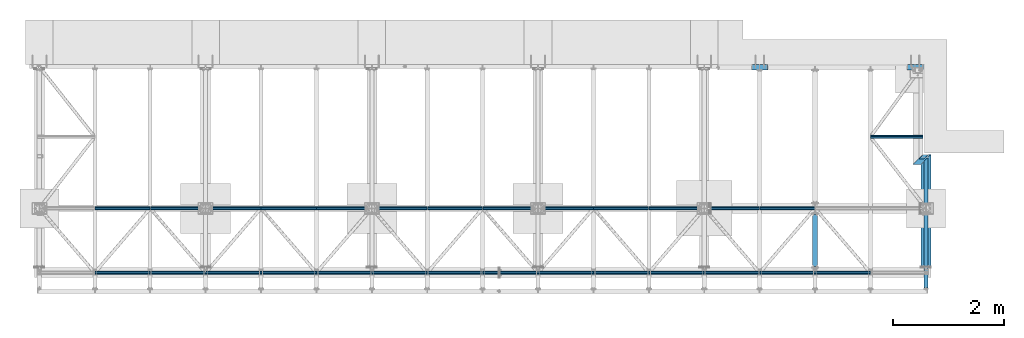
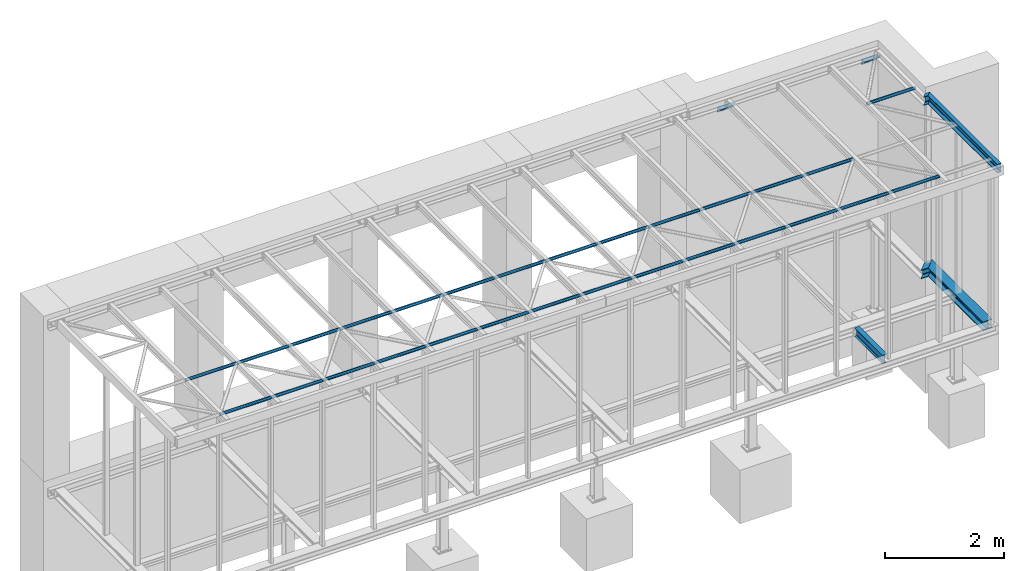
# One storey, part 5 of 22: 35 beams, 35 elements without a shape of their own.
"""IFC2X3 building model written with IfcOpenShell, lengths in millimetres."""

from ifc_helpers import new_model, si_unit, frame, origin_with_axes, origin_2d_with_axis, place, context, subcontext, project, spatial, hollow_circle, i_section, l_section, u_section, extrude, clip, halfspace, material, type_object, element, aggregate, save


model = new_model("IFC2X3")

# Units and contexts
model_context = context("Model", 3, precision=1e-05, world=origin_with_axes())
body_context = subcontext(model_context, "Body", "Model", "MODEL_VIEW")
ifc_project = project(units=[si_unit("LENGTHUNIT", "METRE", prefix="MILLI"), si_unit("AREAUNIT", "SQUARE_METRE"), si_unit("VOLUMEUNIT", "CUBIC_METRE"), si_unit("MASSUNIT", "GRAM", prefix="KILO"), si_unit("TIMEUNIT", "SECOND"), si_unit("PLANEANGLEUNIT", "RADIAN"), si_unit("SOLIDANGLEUNIT", "STERADIAN"), si_unit("THERMODYNAMICTEMPERATUREUNIT", "DEGREE_CELSIUS"), si_unit("LUMINOUSINTENSITYUNIT", "LUMEN")], contexts=[model_context])

# Site, building, storey
site_placement = place(None, origin_with_axes())
site = spatial("IfcSite", under=ifc_project, at=site_placement, Name="Undefined", CompositionType="ELEMENT")
building_placement = place(site_placement, origin_with_axes())
building = spatial("IfcBuilding", under=site, at=building_placement, Name="Undefined", CompositionType="ELEMENT")
storey_placement = place(building_placement, origin_with_axes())
storey = spatial("IfcBuildingStorey", under=building, at=storey_placement, Name="Undefined", CompositionType="ELEMENT", Elevation=0.0)

# Assembly, beam
assembly_1_placement = place(storey_placement, origin_with_axes())
assembly_1 = element("IfcElementAssembly", 1, at=assembly_1_placement, inside=storey, Name="Steel Assembly", AssemblyPlace="NOTDEFINED", PredefinedType="RIGID_FRAME")
ifc_material = material(Name="STEEL/S235JR")
beam_type_1 = type_object("IfcBeamType", Name="IPE180", PredefinedType="NOTDEFINED")
beam_1_placement = place(assembly_1_placement, frame((14050.0, 1150.0, -250.0), z_axis=(0.0, 0.0, 1.0), x_axis=(0.0, -1.0, 0.0)))
beam_1 = element("IfcBeam", 2, at=beam_1_placement, type_object=beam_type_1, material=ifc_material, Name="NOSNÍK", ObjectType="IPE180", context=body_context, shape_type="SweptSolid", body=[
    extrude(i_section(OverallWidth=91.0, OverallDepth=180.0, WebThickness=5.300000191, FlangeThickness=8.0, FilletRadius=9.0, at=origin_2d_with_axis()), frame((940.0, 0.0, 0.0), z_axis=(-1.0, 0.0, 0.0), x_axis=(0.0, -1.0, 0.0)), (0.0, 0.0, 1.0), 940.0),
])
aggregate(assembly_1, [beam_1])

assembly_2_placement = place(storey_placement, origin_with_axes())
assembly_2 = element("IfcElementAssembly", 3, at=assembly_2_placement, inside=storey, Name="Steel Assembly", AssemblyPlace="NOTDEFINED", PredefinedType="RIGID_FRAME")
beam_type_2 = type_object("IfcBeamType", Name="HEB180", PredefinedType="NOTDEFINED")
beam_2_placement = place(assembly_2_placement, frame((16150.0, 2140.0, -250.0), z_axis=(0.0, 0.0, -1.0), x_axis=(-1.0, 0.0, 0.0)))
beam_2 = element("IfcBeam", 4, at=beam_2_placement, type_object=beam_type_2, material=ifc_material, Name="NOSNÍK", ObjectType="HEB180", context=body_context, shape_type="Clipping", body=[
    clip(clip(extrude(i_section(OverallWidth=180.0, OverallDepth=180.0, WebThickness=8.5, FlangeThickness=14.0, FilletRadius=15.0, at=origin_2d_with_axis()), frame((345.0, 0.0, 0.0), z_axis=(-1.0, 0.0, 0.0), x_axis=(0.0, -1.0, 0.0)), (0.0, 0.0, 1.0), 345.0), halfspace(frame((0.0, 100.0, -90.0), z_axis=(-0.707106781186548, -0.707106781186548, 0.0), x_axis=(0.0, 0.0, 1.0)), False)), halfspace(frame((345.0, -100.0, -90.0), z_axis=(0.707106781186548, 0.707106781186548, 0.0), x_axis=(0.0, 0.0, 1.0)), False)),
])
aggregate(assembly_2, [beam_2])

assembly_3_placement = place(storey_placement, origin_with_axes())
assembly_3 = element("IfcElementAssembly", 5, at=assembly_3_placement, inside=storey, Name="Steel Assembly", AssemblyPlace="NOTDEFINED", PredefinedType="RIGID_FRAME")
beam_3_placement = place(assembly_3_placement, frame((16050.0, 210.0, -250.0), z_axis=(0.0, 0.0, -1.0), x_axis=(0.0, 1.0, 0.0)))
beam_3 = element("IfcBeam", 6, at=beam_3_placement, type_object=beam_type_2, material=ifc_material, Name="NOSNÍK", ObjectType="HEB180", context=body_context, shape_type="Clipping", body=[
    clip(extrude(i_section(OverallWidth=180.0, OverallDepth=180.0, WebThickness=8.5, FlangeThickness=14.0, FilletRadius=15.0, at=origin_2d_with_axis()), frame((2030.0, 0.0, 0.0), z_axis=(-1.0, 0.0, 0.0), x_axis=(0.0, -1.0, 0.0)), (0.0, 0.0, 1.0), 2030.0), halfspace(frame((2030.0, 100.0, 110.0), z_axis=(0.707106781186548, -0.707106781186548, 0.0), x_axis=(0.0, 0.0, -1.0)), False)),
])
aggregate(assembly_3, [beam_3])

assembly_4_placement = place(storey_placement, origin_with_axes())
assembly_4 = element("IfcElementAssembly", 7, at=assembly_4_placement, inside=storey, Name="Steel Assembly", AssemblyPlace="NOTDEFINED", PredefinedType="RIGID_FRAME")
beam_type_3 = type_object("IfcBeamType", Name="UPE180", PredefinedType="NOTDEFINED")
beam_4_placement = place(assembly_4_placement, frame((15925.0, 2192.5, 3210.0), z_axis=(0.0, 0.0, 1.0), x_axis=(1.0, 0.0, 0.0)))
beam_4 = element("IfcBeam", 8, at=beam_4_placement, type_object=beam_type_3, material=ifc_material, Name="NOSNÍK", ObjectType="UPE180", context=body_context, shape_type="Clipping", body=[
    clip(clip(extrude(u_section(Depth=180.0, FlangeWidth=75.0, WebThickness=5.5, FlangeThickness=10.5, FilletRadius=12.0, at=origin_2d_with_axis()), frame((165.0, 0.0, 0.0), z_axis=(-1.0, 0.0, 0.0), x_axis=(0.0, -1.0, 0.0)), (0.0, 0.0, 1.0), 165.0), halfspace(frame((90.0, -37.5, -90.0), z_axis=(0.707106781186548, -0.707106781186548, 0.0), x_axis=(0.0, 0.0, 1.0)), False)), halfspace(frame((75.0, 37.5, -90.0), z_axis=(-0.707106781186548, 0.707106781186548, 0.0), x_axis=(0.0, 0.0, 1.0)), False)),
])
aggregate(assembly_4, [beam_4])

assembly_5_placement = place(storey_placement, origin_with_axes())
assembly_5 = element("IfcElementAssembly", 9, at=assembly_5_placement, inside=storey, Name="Steel Assembly", AssemblyPlace="NOTDEFINED", PredefinedType="RIGID_FRAME")
beam_5_placement = place(assembly_5_placement, frame((16052.5, -180.0, 3210.0), z_axis=(0.0, 0.0, -1.0), x_axis=(0.0, 1.0, 0.0)))
beam_5 = element("IfcBeam", 10, at=beam_5_placement, type_object=beam_type_3, material=ifc_material, Name="NOSNÍK", ObjectType="UPE180", context=body_context, shape_type="Clipping", body=[
    clip(extrude(u_section(Depth=180.0, FlangeWidth=75.0, WebThickness=5.5, FlangeThickness=10.5, FilletRadius=12.0, at=origin_2d_with_axis()), frame((2410.0, 0.0, 0.0), z_axis=(-1.0, 0.0, 0.0), x_axis=(0.0, -1.0, 0.0)), (0.0, 0.0, 1.0), 2410.0), halfspace(frame((2410.0, 37.5, 90.0), z_axis=(0.707106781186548, -0.707106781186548, 0.0), x_axis=(0.0, 0.0, -1.0)), False)),
])
aggregate(assembly_5, [beam_5])

assembly_6_placement = place(storey_placement, origin_with_axes())
assembly_6 = element("IfcElementAssembly", 11, at=assembly_6_placement, inside=storey, Name="Steel Assembly", AssemblyPlace="NOTDEFINED", PredefinedType="RIGID_FRAME")
beam_type_4 = type_object("IfcBeamType", Name="CHS60.3*5", PredefinedType="NOTDEFINED")
beam_6_placement = place(assembly_6_placement, frame((15050.0, 2550.0, 3230.0), z_axis=(0.0, 0.0, -1.0), x_axis=(1.0, 0.0, 0.0)))
beam_6 = element("IfcBeam", 12, at=beam_6_placement, type_object=beam_type_4, material=ifc_material, Name="NOSNÍK", ObjectType="CHS60.3*5", context=body_context, shape_type="SweptSolid", body=[
    extrude(hollow_circle(Radius=30.15, WallThickness=5.0, at=origin_2d_with_axis()), frame((945.0, 0.0, 0.0), z_axis=(-1.0, 0.0, 0.0), x_axis=(0.0, -1.0, 0.0)), (0.0, 0.0, 1.0), 945.0),
])
aggregate(assembly_6, [beam_6])

assembly_7_placement = place(storey_placement, origin_with_axes())
assembly_7 = element("IfcElementAssembly", 13, at=assembly_7_placement, inside=storey, Name="Steel Assembly", AssemblyPlace="NOTDEFINED", PredefinedType="RIGID_FRAME")
beam_7_placement = place(assembly_7_placement, frame((14052.35, 100.0, 3230.0), z_axis=(0.0, 0.0, -1.0), x_axis=(1.0, 0.0, 0.0)))
beam_7 = element("IfcBeam", 14, at=beam_7_placement, type_object=beam_type_4, material=ifc_material, Name="NOSNÍK", ObjectType="CHS60.3*5", context=body_context, shape_type="SweptSolid", body=[
    extrude(hollow_circle(Radius=30.15, WallThickness=5.0, at=origin_2d_with_axis()), frame((995.299999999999, 0.0, 0.0), z_axis=(-1.0, 0.0, 0.0), x_axis=(0.0, -1.0, 0.0)), (0.0, 0.0, 1.0), 995.3),
])
aggregate(assembly_7, [beam_7])

assembly_8_placement = place(storey_placement, origin_with_axes())
assembly_8 = element("IfcElementAssembly", 15, at=assembly_8_placement, inside=storey, Name="Steel Assembly", AssemblyPlace="NOTDEFINED", PredefinedType="RIGID_FRAME")
beam_8_placement = place(assembly_8_placement, frame((13052.35, 100.0, 3230.0), z_axis=(0.0, 0.0, -1.0), x_axis=(1.0, 0.0, 0.0)))
beam_8 = element("IfcBeam", 16, at=beam_8_placement, type_object=beam_type_4, material=ifc_material, Name="NOSNÍK", ObjectType="CHS60.3*5", context=body_context, shape_type="SweptSolid", body=[
    extrude(hollow_circle(Radius=30.15, WallThickness=5.0, at=origin_2d_with_axis()), frame((995.299999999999, 0.0, 0.0), z_axis=(-1.0, 0.0, 0.0), x_axis=(0.0, -1.0, 0.0)), (0.0, 0.0, 1.0), 995.3),
])
aggregate(assembly_8, [beam_8])

assembly_9_placement = place(storey_placement, origin_with_axes())
assembly_9 = element("IfcElementAssembly", 17, at=assembly_9_placement, inside=storey, Name="Steel Assembly", AssemblyPlace="NOTDEFINED", PredefinedType="RIGID_FRAME")
beam_9_placement = place(assembly_9_placement, frame((12052.35, 100.0, 3230.0), z_axis=(0.0, 0.0, -1.0), x_axis=(1.0, 0.0, 0.0)))
beam_9 = element("IfcBeam", 18, at=beam_9_placement, type_object=beam_type_4, material=ifc_material, Name="NOSNÍK", ObjectType="CHS60.3*5", context=body_context, shape_type="SweptSolid", body=[
    extrude(hollow_circle(Radius=30.15, WallThickness=5.0, at=origin_2d_with_axis()), frame((995.299999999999, 0.0, 0.0), z_axis=(-1.0, 0.0, 0.0), x_axis=(0.0, -1.0, 0.0)), (0.0, 0.0, 1.0), 995.3),
])
aggregate(assembly_9, [beam_9])

assembly_10_placement = place(storey_placement, origin_with_axes())
assembly_10 = element("IfcElementAssembly", 19, at=assembly_10_placement, inside=storey, Name="Steel Assembly", AssemblyPlace="NOTDEFINED", PredefinedType="RIGID_FRAME")
beam_10_placement = place(assembly_10_placement, frame((11052.35, 100.0, 3230.0), z_axis=(0.0, 0.0, -1.0), x_axis=(1.0, 0.0, 0.0)))
beam_10 = element("IfcBeam", 20, at=beam_10_placement, type_object=beam_type_4, material=ifc_material, Name="NOSNÍK", ObjectType="CHS60.3*5", context=body_context, shape_type="SweptSolid", body=[
    extrude(hollow_circle(Radius=30.15, WallThickness=5.0, at=origin_2d_with_axis()), frame((995.299999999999, 0.0, 0.0), z_axis=(-1.0, 0.0, 0.0), x_axis=(0.0, -1.0, 0.0)), (0.0, 0.0, 1.0), 995.3),
])
aggregate(assembly_10, [beam_10])

assembly_11_placement = place(storey_placement, origin_with_axes())
assembly_11 = element("IfcElementAssembly", 21, at=assembly_11_placement, inside=storey, Name="Steel Assembly", AssemblyPlace="NOTDEFINED", PredefinedType="RIGID_FRAME")
beam_11_placement = place(assembly_11_placement, frame((10052.35, 100.0, 3230.0), z_axis=(0.0, 0.0, -1.0), x_axis=(1.0, 0.0, 0.0)))
beam_11 = element("IfcBeam", 22, at=beam_11_placement, type_object=beam_type_4, material=ifc_material, Name="NOSNÍK", ObjectType="CHS60.3*5", context=body_context, shape_type="SweptSolid", body=[
    extrude(hollow_circle(Radius=30.15, WallThickness=5.0, at=origin_2d_with_axis()), frame((995.299999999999, 0.0, 0.0), z_axis=(-1.0, 0.0, 0.0), x_axis=(0.0, -1.0, 0.0)), (0.0, 0.0, 1.0), 995.3),
])
aggregate(assembly_11, [beam_11])

assembly_12_placement = place(storey_placement, origin_with_axes())
assembly_12 = element("IfcElementAssembly", 23, at=assembly_12_placement, inside=storey, Name="Steel Assembly", AssemblyPlace="NOTDEFINED", PredefinedType="RIGID_FRAME")
beam_12_placement = place(assembly_12_placement, frame((9052.35, 100.0, 3230.0), z_axis=(0.0, 0.0, -1.0), x_axis=(1.0, 0.0, 0.0)))
beam_12 = element("IfcBeam", 24, at=beam_12_placement, type_object=beam_type_4, material=ifc_material, Name="NOSNÍK", ObjectType="CHS60.3*5", context=body_context, shape_type="SweptSolid", body=[
    extrude(hollow_circle(Radius=30.15, WallThickness=5.0, at=origin_2d_with_axis()), frame((995.299999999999, 0.0, 0.0), z_axis=(-1.0, 0.0, 0.0), x_axis=(0.0, -1.0, 0.0)), (0.0, 0.0, 1.0), 995.3),
])
aggregate(assembly_12, [beam_12])

assembly_13_placement = place(storey_placement, origin_with_axes())
assembly_13 = element("IfcElementAssembly", 25, at=assembly_13_placement, inside=storey, Name="Steel Assembly", AssemblyPlace="NOTDEFINED", PredefinedType="RIGID_FRAME")
beam_13_placement = place(assembly_13_placement, frame((8052.35, 100.0, 3230.0), z_axis=(0.0, 0.0, -1.0), x_axis=(1.0, 0.0, 0.0)))
beam_13 = element("IfcBeam", 26, at=beam_13_placement, type_object=beam_type_4, material=ifc_material, Name="NOSNÍK", ObjectType="CHS60.3*5", context=body_context, shape_type="SweptSolid", body=[
    extrude(hollow_circle(Radius=30.15, WallThickness=5.0, at=origin_2d_with_axis()), frame((995.299999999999, 0.0, 0.0), z_axis=(-1.0, 0.0, 0.0), x_axis=(0.0, -1.0, 0.0)), (0.0, 0.0, 1.0), 995.3),
])
aggregate(assembly_13, [beam_13])

assembly_14_placement = place(storey_placement, origin_with_axes())
assembly_14 = element("IfcElementAssembly", 27, at=assembly_14_placement, inside=storey, Name="Steel Assembly", AssemblyPlace="NOTDEFINED", PredefinedType="RIGID_FRAME")
beam_14_placement = place(assembly_14_placement, frame((7052.35, 100.0, 3230.0), z_axis=(0.0, 0.0, -1.0), x_axis=(1.0, 0.0, 0.0)))
beam_14 = element("IfcBeam", 28, at=beam_14_placement, type_object=beam_type_4, material=ifc_material, Name="NOSNÍK", ObjectType="CHS60.3*5", context=body_context, shape_type="SweptSolid", body=[
    extrude(hollow_circle(Radius=30.15, WallThickness=5.0, at=origin_2d_with_axis()), frame((995.299999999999, 0.0, 0.0), z_axis=(-1.0, 0.0, 0.0), x_axis=(0.0, -1.0, 0.0)), (0.0, 0.0, 1.0), 995.3),
])
aggregate(assembly_14, [beam_14])

assembly_15_placement = place(storey_placement, origin_with_axes())
assembly_15 = element("IfcElementAssembly", 29, at=assembly_15_placement, inside=storey, Name="Steel Assembly", AssemblyPlace="NOTDEFINED", PredefinedType="RIGID_FRAME")
beam_15_placement = place(assembly_15_placement, frame((6052.35, 100.0, 3230.0), z_axis=(0.0, 0.0, -1.0), x_axis=(1.0, 0.0, 0.0)))
beam_15 = element("IfcBeam", 30, at=beam_15_placement, type_object=beam_type_4, material=ifc_material, Name="NOSNÍK", ObjectType="CHS60.3*5", context=body_context, shape_type="SweptSolid", body=[
    extrude(hollow_circle(Radius=30.15, WallThickness=5.0, at=origin_2d_with_axis()), frame((995.299999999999, 0.0, 0.0), z_axis=(-1.0, 0.0, 0.0), x_axis=(0.0, -1.0, 0.0)), (0.0, 0.0, 1.0), 995.3),
])
aggregate(assembly_15, [beam_15])

assembly_16_placement = place(storey_placement, origin_with_axes())
assembly_16 = element("IfcElementAssembly", 31, at=assembly_16_placement, inside=storey, Name="Steel Assembly", AssemblyPlace="NOTDEFINED", PredefinedType="RIGID_FRAME")
beam_16_placement = place(assembly_16_placement, frame((5052.35, 100.0, 3230.0), z_axis=(0.0, 0.0, -1.0), x_axis=(1.0, 0.0, 0.0)))
beam_16 = element("IfcBeam", 32, at=beam_16_placement, type_object=beam_type_4, material=ifc_material, Name="NOSNÍK", ObjectType="CHS60.3*5", context=body_context, shape_type="SweptSolid", body=[
    extrude(hollow_circle(Radius=30.15, WallThickness=5.0, at=origin_2d_with_axis()), frame((995.299999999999, 0.0, 0.0), z_axis=(-1.0, 0.0, 0.0), x_axis=(0.0, -1.0, 0.0)), (0.0, 0.0, 1.0), 995.3),
])
aggregate(assembly_16, [beam_16])

assembly_17_placement = place(storey_placement, origin_with_axes())
assembly_17 = element("IfcElementAssembly", 33, at=assembly_17_placement, inside=storey, Name="Steel Assembly", AssemblyPlace="NOTDEFINED", PredefinedType="RIGID_FRAME")
beam_17_placement = place(assembly_17_placement, frame((4052.35, 100.0, 3230.0), z_axis=(0.0, 0.0, -1.0), x_axis=(1.0, 0.0, 0.0)))
beam_17 = element("IfcBeam", 34, at=beam_17_placement, type_object=beam_type_4, material=ifc_material, Name="NOSNÍK", ObjectType="CHS60.3*5", context=body_context, shape_type="SweptSolid", body=[
    extrude(hollow_circle(Radius=30.15, WallThickness=5.0, at=origin_2d_with_axis()), frame((995.299999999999, 0.0, 0.0), z_axis=(-1.0, 0.0, 0.0), x_axis=(0.0, -1.0, 0.0)), (0.0, 0.0, 1.0), 995.3),
])
aggregate(assembly_17, [beam_17])

assembly_18_placement = place(storey_placement, origin_with_axes())
assembly_18 = element("IfcElementAssembly", 35, at=assembly_18_placement, inside=storey, Name="Steel Assembly", AssemblyPlace="NOTDEFINED", PredefinedType="RIGID_FRAME")
beam_18_placement = place(assembly_18_placement, frame((3052.35, 100.0, 3230.0), z_axis=(0.0, 0.0, -1.0), x_axis=(1.0, 0.0, 0.0)))
beam_18 = element("IfcBeam", 36, at=beam_18_placement, type_object=beam_type_4, material=ifc_material, Name="NOSNÍK", ObjectType="CHS60.3*5", context=body_context, shape_type="SweptSolid", body=[
    extrude(hollow_circle(Radius=30.15, WallThickness=5.0, at=origin_2d_with_axis()), frame((995.299999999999, 0.0, 0.0), z_axis=(-1.0, 0.0, 0.0), x_axis=(0.0, -1.0, 0.0)), (0.0, 0.0, 1.0), 995.3),
])
aggregate(assembly_18, [beam_18])

assembly_19_placement = place(storey_placement, origin_with_axes())
assembly_19 = element("IfcElementAssembly", 37, at=assembly_19_placement, inside=storey, Name="Steel Assembly", AssemblyPlace="NOTDEFINED", PredefinedType="RIGID_FRAME")
beam_19_placement = place(assembly_19_placement, frame((2052.35, 100.0, 3230.0), z_axis=(0.0, 0.0, -1.0), x_axis=(1.0, 0.0, 0.0)))
beam_19 = element("IfcBeam", 38, at=beam_19_placement, type_object=beam_type_4, material=ifc_material, Name="NOSNÍK", ObjectType="CHS60.3*5", context=body_context, shape_type="SweptSolid", body=[
    extrude(hollow_circle(Radius=30.15, WallThickness=5.0, at=origin_2d_with_axis()), frame((995.299999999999, 0.0, 0.0), z_axis=(-1.0, 0.0, 0.0), x_axis=(0.0, -1.0, 0.0)), (0.0, 0.0, 1.0), 995.3),
])
aggregate(assembly_19, [beam_19])

assembly_20_placement = place(storey_placement, origin_with_axes())
assembly_20 = element("IfcElementAssembly", 39, at=assembly_20_placement, inside=storey, Name="Steel Assembly", AssemblyPlace="NOTDEFINED", PredefinedType="RIGID_FRAME")
beam_20_placement = place(assembly_20_placement, frame((1052.35, 100.0, 3230.0), z_axis=(0.0, 0.0, -1.0), x_axis=(1.0, 0.0, 0.0)))
beam_20 = element("IfcBeam", 40, at=beam_20_placement, type_object=beam_type_4, material=ifc_material, Name="NOSNÍK", ObjectType="CHS60.3*5", context=body_context, shape_type="SweptSolid", body=[
    extrude(hollow_circle(Radius=30.15, WallThickness=5.0, at=origin_2d_with_axis()), frame((995.299999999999, 0.0, 0.0), z_axis=(-1.0, 0.0, 0.0), x_axis=(0.0, -1.0, 0.0)), (0.0, 0.0, 1.0), 995.3),
])
aggregate(assembly_20, [beam_20])

assembly_21_placement = place(storey_placement, origin_with_axes())
assembly_21 = element("IfcElementAssembly", 41, at=assembly_21_placement, inside=storey, Name="Steel Assembly", AssemblyPlace="NOTDEFINED", PredefinedType="RIGID_FRAME")
beam_21_placement = place(assembly_21_placement, frame((13052.35, 1260.0, 3230.0), z_axis=(0.0, 0.0, -1.0), x_axis=(1.0, 0.0, 0.0)))
beam_21 = element("IfcBeam", 42, at=beam_21_placement, type_object=beam_type_4, material=ifc_material, Name="NOSNÍK", ObjectType="CHS60.3*5", context=body_context, shape_type="SweptSolid", body=[
    extrude(hollow_circle(Radius=30.15, WallThickness=5.0, at=origin_2d_with_axis()), frame((995.299999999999, 0.0, 0.0), z_axis=(-1.0, 0.0, 0.0), x_axis=(0.0, -1.0, 0.0)), (0.0, 0.0, 1.0), 995.3),
])
aggregate(assembly_21, [beam_21])

assembly_22_placement = place(storey_placement, origin_with_axes())
assembly_22 = element("IfcElementAssembly", 43, at=assembly_22_placement, inside=storey, Name="Steel Assembly", AssemblyPlace="NOTDEFINED", PredefinedType="RIGID_FRAME")
beam_22_placement = place(assembly_22_placement, frame((12052.35, 1260.0, 3230.0), z_axis=(0.0, 0.0, -1.0), x_axis=(1.0, 0.0, 0.0)))
beam_22 = element("IfcBeam", 44, at=beam_22_placement, type_object=beam_type_4, material=ifc_material, Name="NOSNÍK", ObjectType="CHS60.3*5", context=body_context, shape_type="SweptSolid", body=[
    extrude(hollow_circle(Radius=30.15, WallThickness=5.0, at=origin_2d_with_axis()), frame((995.299999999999, 0.0, 0.0), z_axis=(-1.0, 0.0, 0.0), x_axis=(0.0, -1.0, 0.0)), (0.0, 0.0, 1.0), 995.3),
])
aggregate(assembly_22, [beam_22])

assembly_23_placement = place(storey_placement, origin_with_axes())
assembly_23 = element("IfcElementAssembly", 45, at=assembly_23_placement, inside=storey, Name="Steel Assembly", AssemblyPlace="NOTDEFINED", PredefinedType="RIGID_FRAME")
beam_23_placement = place(assembly_23_placement, frame((11052.35, 1260.0, 3230.0), z_axis=(0.0, 0.0, -1.0), x_axis=(1.0, 0.0, 0.0)))
beam_23 = element("IfcBeam", 46, at=beam_23_placement, type_object=beam_type_4, material=ifc_material, Name="NOSNÍK", ObjectType="CHS60.3*5", context=body_context, shape_type="SweptSolid", body=[
    extrude(hollow_circle(Radius=30.15, WallThickness=5.0, at=origin_2d_with_axis()), frame((995.299999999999, 0.0, 0.0), z_axis=(-1.0, 0.0, 0.0), x_axis=(0.0, -1.0, 0.0)), (0.0, 0.0, 1.0), 995.3),
])
aggregate(assembly_23, [beam_23])

assembly_24_placement = place(storey_placement, origin_with_axes())
assembly_24 = element("IfcElementAssembly", 47, at=assembly_24_placement, inside=storey, Name="Steel Assembly", AssemblyPlace="NOTDEFINED", PredefinedType="RIGID_FRAME")
beam_24_placement = place(assembly_24_placement, frame((10052.35, 1260.0, 3230.0), z_axis=(0.0, 0.0, -1.0), x_axis=(1.0, 0.0, 0.0)))
beam_24 = element("IfcBeam", 48, at=beam_24_placement, type_object=beam_type_4, material=ifc_material, Name="NOSNÍK", ObjectType="CHS60.3*5", context=body_context, shape_type="SweptSolid", body=[
    extrude(hollow_circle(Radius=30.15, WallThickness=5.0, at=origin_2d_with_axis()), frame((995.299999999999, 0.0, 0.0), z_axis=(-1.0, 0.0, 0.0), x_axis=(0.0, -1.0, 0.0)), (0.0, 0.0, 1.0), 995.3),
])
aggregate(assembly_24, [beam_24])

assembly_25_placement = place(storey_placement, origin_with_axes())
assembly_25 = element("IfcElementAssembly", 49, at=assembly_25_placement, inside=storey, Name="Steel Assembly", AssemblyPlace="NOTDEFINED", PredefinedType="RIGID_FRAME")
beam_25_placement = place(assembly_25_placement, frame((9052.35, 1260.0, 3230.0), z_axis=(0.0, 0.0, -1.0), x_axis=(1.0, 0.0, 0.0)))
beam_25 = element("IfcBeam", 50, at=beam_25_placement, type_object=beam_type_4, material=ifc_material, Name="NOSNÍK", ObjectType="CHS60.3*5", context=body_context, shape_type="SweptSolid", body=[
    extrude(hollow_circle(Radius=30.15, WallThickness=5.0, at=origin_2d_with_axis()), frame((995.299999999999, 0.0, 0.0), z_axis=(-1.0, 0.0, 0.0), x_axis=(0.0, -1.0, 0.0)), (0.0, 0.0, 1.0), 995.3),
])
aggregate(assembly_25, [beam_25])

assembly_26_placement = place(storey_placement, origin_with_axes())
assembly_26 = element("IfcElementAssembly", 51, at=assembly_26_placement, inside=storey, Name="Steel Assembly", AssemblyPlace="NOTDEFINED", PredefinedType="RIGID_FRAME")
beam_26_placement = place(assembly_26_placement, frame((8052.35, 1260.0, 3230.0), z_axis=(0.0, 0.0, -1.0), x_axis=(1.0, 0.0, 0.0)))
beam_26 = element("IfcBeam", 52, at=beam_26_placement, type_object=beam_type_4, material=ifc_material, Name="NOSNÍK", ObjectType="CHS60.3*5", context=body_context, shape_type="SweptSolid", body=[
    extrude(hollow_circle(Radius=30.15, WallThickness=5.0, at=origin_2d_with_axis()), frame((995.299999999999, 0.0, 0.0), z_axis=(-1.0, 0.0, 0.0), x_axis=(0.0, -1.0, 0.0)), (0.0, 0.0, 1.0), 995.3),
])
aggregate(assembly_26, [beam_26])

assembly_27_placement = place(storey_placement, origin_with_axes())
assembly_27 = element("IfcElementAssembly", 53, at=assembly_27_placement, inside=storey, Name="Steel Assembly", AssemblyPlace="NOTDEFINED", PredefinedType="RIGID_FRAME")
beam_27_placement = place(assembly_27_placement, frame((7052.35, 1260.0, 3230.0), z_axis=(0.0, 0.0, -1.0), x_axis=(1.0, 0.0, 0.0)))
beam_27 = element("IfcBeam", 54, at=beam_27_placement, type_object=beam_type_4, material=ifc_material, Name="NOSNÍK", ObjectType="CHS60.3*5", context=body_context, shape_type="SweptSolid", body=[
    extrude(hollow_circle(Radius=30.15, WallThickness=5.0, at=origin_2d_with_axis()), frame((995.299999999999, 0.0, 0.0), z_axis=(-1.0, 0.0, 0.0), x_axis=(0.0, -1.0, 0.0)), (0.0, 0.0, 1.0), 995.3),
])
aggregate(assembly_27, [beam_27])

assembly_28_placement = place(storey_placement, origin_with_axes())
assembly_28 = element("IfcElementAssembly", 55, at=assembly_28_placement, inside=storey, Name="Steel Assembly", AssemblyPlace="NOTDEFINED", PredefinedType="RIGID_FRAME")
beam_28_placement = place(assembly_28_placement, frame((6052.35, 1260.0, 3230.0), z_axis=(0.0, 0.0, -1.0), x_axis=(1.0, 0.0, 0.0)))
beam_28 = element("IfcBeam", 56, at=beam_28_placement, type_object=beam_type_4, material=ifc_material, Name="NOSNÍK", ObjectType="CHS60.3*5", context=body_context, shape_type="SweptSolid", body=[
    extrude(hollow_circle(Radius=30.15, WallThickness=5.0, at=origin_2d_with_axis()), frame((995.299999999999, 0.0, 0.0), z_axis=(-1.0, 0.0, 0.0), x_axis=(0.0, -1.0, 0.0)), (0.0, 0.0, 1.0), 995.3),
])
aggregate(assembly_28, [beam_28])

assembly_29_placement = place(storey_placement, origin_with_axes())
assembly_29 = element("IfcElementAssembly", 57, at=assembly_29_placement, inside=storey, Name="Steel Assembly", AssemblyPlace="NOTDEFINED", PredefinedType="RIGID_FRAME")
beam_29_placement = place(assembly_29_placement, frame((5052.35, 1260.0, 3230.0), z_axis=(0.0, 0.0, -1.0), x_axis=(1.0, 0.0, 0.0)))
beam_29 = element("IfcBeam", 58, at=beam_29_placement, type_object=beam_type_4, material=ifc_material, Name="NOSNÍK", ObjectType="CHS60.3*5", context=body_context, shape_type="SweptSolid", body=[
    extrude(hollow_circle(Radius=30.15, WallThickness=5.0, at=origin_2d_with_axis()), frame((995.299999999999, 0.0, 0.0), z_axis=(-1.0, 0.0, 0.0), x_axis=(0.0, -1.0, 0.0)), (0.0, 0.0, 1.0), 995.3),
])
aggregate(assembly_29, [beam_29])

assembly_30_placement = place(storey_placement, origin_with_axes())
assembly_30 = element("IfcElementAssembly", 59, at=assembly_30_placement, inside=storey, Name="Steel Assembly", AssemblyPlace="NOTDEFINED", PredefinedType="RIGID_FRAME")
beam_30_placement = place(assembly_30_placement, frame((4052.35, 1260.0, 3230.0), z_axis=(0.0, 0.0, -1.0), x_axis=(1.0, 0.0, 0.0)))
beam_30 = element("IfcBeam", 60, at=beam_30_placement, type_object=beam_type_4, material=ifc_material, Name="NOSNÍK", ObjectType="CHS60.3*5", context=body_context, shape_type="SweptSolid", body=[
    extrude(hollow_circle(Radius=30.15, WallThickness=5.0, at=origin_2d_with_axis()), frame((995.299999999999, 0.0, 0.0), z_axis=(-1.0, 0.0, 0.0), x_axis=(0.0, -1.0, 0.0)), (0.0, 0.0, 1.0), 995.3),
])
aggregate(assembly_30, [beam_30])

assembly_31_placement = place(storey_placement, origin_with_axes())
assembly_31 = element("IfcElementAssembly", 61, at=assembly_31_placement, inside=storey, Name="Steel Assembly", AssemblyPlace="NOTDEFINED", PredefinedType="RIGID_FRAME")
beam_31_placement = place(assembly_31_placement, frame((3052.35, 1260.0, 3230.0), z_axis=(0.0, 0.0, -1.0), x_axis=(1.0, 0.0, 0.0)))
beam_31 = element("IfcBeam", 62, at=beam_31_placement, type_object=beam_type_4, material=ifc_material, Name="NOSNÍK", ObjectType="CHS60.3*5", context=body_context, shape_type="SweptSolid", body=[
    extrude(hollow_circle(Radius=30.15, WallThickness=5.0, at=origin_2d_with_axis()), frame((995.299999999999, 0.0, 0.0), z_axis=(-1.0, 0.0, 0.0), x_axis=(0.0, -1.0, 0.0)), (0.0, 0.0, 1.0), 995.3),
])
aggregate(assembly_31, [beam_31])

assembly_32_placement = place(storey_placement, origin_with_axes())
assembly_32 = element("IfcElementAssembly", 63, at=assembly_32_placement, inside=storey, Name="Steel Assembly", AssemblyPlace="NOTDEFINED", PredefinedType="RIGID_FRAME")
beam_32_placement = place(assembly_32_placement, frame((2052.35, 1260.0, 3230.0), z_axis=(0.0, 0.0, -1.0), x_axis=(1.0, 0.0, 0.0)))
beam_32 = element("IfcBeam", 64, at=beam_32_placement, type_object=beam_type_4, material=ifc_material, Name="NOSNÍK", ObjectType="CHS60.3*5", context=body_context, shape_type="SweptSolid", body=[
    extrude(hollow_circle(Radius=30.15, WallThickness=5.0, at=origin_2d_with_axis()), frame((995.299999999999, 0.0, 0.0), z_axis=(-1.0, 0.0, 0.0), x_axis=(0.0, -1.0, 0.0)), (0.0, 0.0, 1.0), 995.3),
])
aggregate(assembly_32, [beam_32])

assembly_33_placement = place(storey_placement, origin_with_axes())
assembly_33 = element("IfcElementAssembly", 65, at=assembly_33_placement, inside=storey, Name="Steel Assembly", AssemblyPlace="NOTDEFINED", PredefinedType="RIGID_FRAME")
beam_33_placement = place(assembly_33_placement, frame((1052.35, 1260.0, 3230.0), z_axis=(0.0, 0.0, -1.0), x_axis=(1.0, 0.0, 0.0)))
beam_33 = element("IfcBeam", 66, at=beam_33_placement, type_object=beam_type_4, material=ifc_material, Name="NOSNÍK", ObjectType="CHS60.3*5", context=body_context, shape_type="SweptSolid", body=[
    extrude(hollow_circle(Radius=30.15, WallThickness=5.0, at=origin_2d_with_axis()), frame((995.299999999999, 0.0, 0.0), z_axis=(-1.0, 0.0, 0.0), x_axis=(0.0, -1.0, 0.0)), (0.0, 0.0, 1.0), 995.3),
])
aggregate(assembly_33, [beam_33])

assembly_34_placement = place(storey_placement, origin_with_axes())
assembly_34 = element("IfcElementAssembly", 67, at=assembly_34_placement, inside=storey, Name="Steel Assembly", AssemblyPlace="NOTDEFINED", PredefinedType="RIGID_FRAME")
beam_type_5 = type_object("IfcBeamType", Name="L100*10", PredefinedType="NOTDEFINED")
beam_34_placement = place(assembly_34_placement, frame((13200.0, 3810.0, 3070.0), z_axis=(0.0, 0.0, -1.0), x_axis=(-1.0, 0.0, 0.0)))
beam_34 = element("IfcBeam", 68, at=beam_34_placement, type_object=beam_type_5, material=ifc_material, Name="NOSNÍK", ObjectType="L100*10", context=body_context, shape_type="SweptSolid", body=[
    extrude(l_section(Depth=100.0, Width=100.0, Thickness=10.0, FilletRadius=12.0, EdgeRadius=6.0, at=origin_2d_with_axis()), frame((300.0, 0.0, 0.0), z_axis=(-1.0, 0.0, 0.0), x_axis=(0.0, -1.0, 0.0)), (0.0, 0.0, 1.0), 300.0),
])
aggregate(assembly_34, [beam_34])

assembly_35_placement = place(storey_placement, origin_with_axes())
assembly_35 = element("IfcElementAssembly", 69, at=assembly_35_placement, inside=storey, Name="Steel Assembly", AssemblyPlace="NOTDEFINED", PredefinedType="RIGID_FRAME")
beam_35_placement = place(assembly_35_placement, frame((16005.0, 3810.0, 3070.0), z_axis=(0.0, 0.0, -1.0), x_axis=(-1.0, 0.0, 0.0)))
beam_35 = element("IfcBeam", 70, at=beam_35_placement, type_object=beam_type_5, material=ifc_material, Name="NOSNÍK", ObjectType="L100*10", context=body_context, shape_type="SweptSolid", body=[
    extrude(l_section(Depth=100.0, Width=100.0, Thickness=10.0, FilletRadius=12.0, EdgeRadius=6.0, at=origin_2d_with_axis()), frame((300.0, 0.0, 0.0), z_axis=(-1.0, 0.0, 0.0), x_axis=(0.0, -1.0, 0.0)), (0.0, 0.0, 1.0), 300.0),
])
aggregate(assembly_35, [beam_35])

save(model, "model.ifc")
